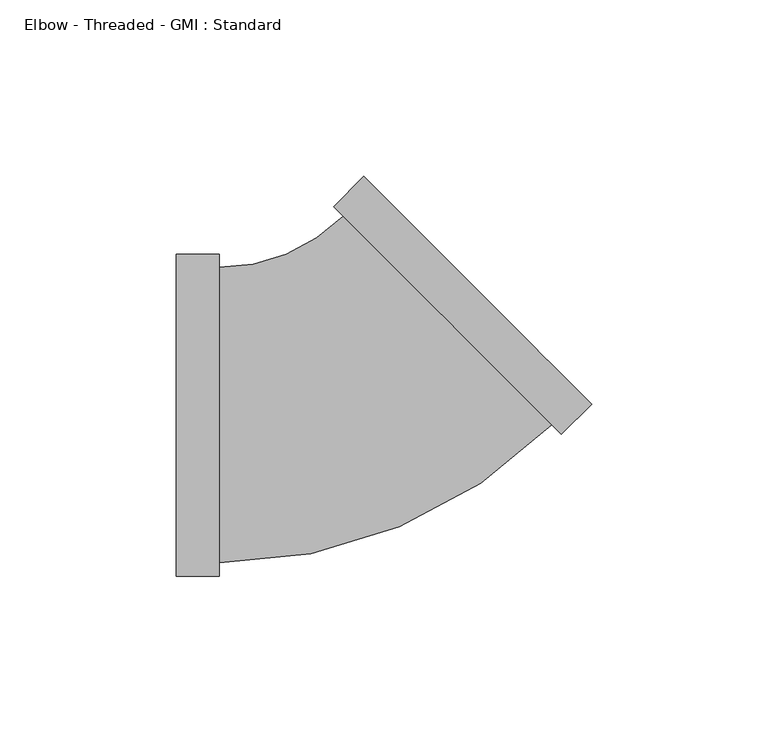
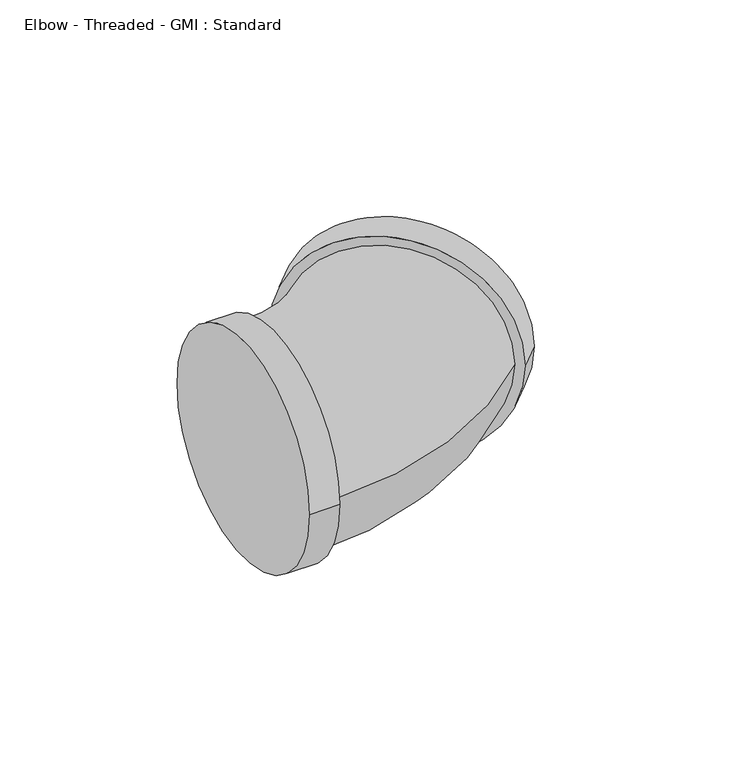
"""IFC4 building model written with IfcOpenShell, lengths in millimetres: pipe fitting geometry, Elbow - Threaded - GMI : Standard."""

from ifc_helpers import new_model, si_unit, point, frame, origin, place, context, project, spatial, circle_curve, ellipse_curve, trimmed, source, transform, mapped, element, save
from ifc_brep_helpers import plane_surface, cylinder_surface, revolved_surface, advanced_brep


def elbow_threaded_gmi_standard_9261818c(model_context):
    return source(origin(), model_context, "Body", "AdvancedBrep", [
        advanced_brep(
        [(-50.0, -45.6, 0.0), (-50.0, 45.6, 0.0), (-37.9, -45.6, 0.0), (-37.9, 45.6, 0.0), (-37.9, -41.83, 0.0), (-37.9, 41.83, 0.0), (59.0434162, -5.4447222, 0.0), (-5.4447222, 59.0434162, 0.0), (-2.7789296, 56.3776237, 0.0), (56.3776237, -2.7789297, 0.0), (67.5994083, 3.1112698, 0.0), (3.1112698, 67.5994083, 0.0)],
        [
            (0, 1, circle_curve(frame((-50.0, 0.0, 0.0), z_axis=(-1.0, 0.0, 0.0), x_axis=(0.0, 1.0, 0.0)), 45.6)),
            (1, 0, circle_curve(frame((-50.0, 0.0, 0.0), z_axis=(-1.0, 0.0, 0.0), x_axis=(0.0, 1.0, 0.0)), 45.6)),
            (2, 3, circle_curve(frame((-37.9, 0.0, 0.0), z_axis=(1.0, 0.0, 0.0), x_axis=(0.0, 1.0, 0.0)), 45.6)),
            (3, 2, circle_curve(frame((-37.9, 0.0, 0.0), z_axis=(1.0, 0.0, 0.0), x_axis=(0.0, 1.0, 0.0)), 45.6)),
            (4, 5, circle_curve(frame((-37.9, 0.0, 0.0), z_axis=(-1.0, 0.0, 0.0), x_axis=(0.0, 1.0, 0.0)), 41.83)),
            (5, 4, circle_curve(frame((-37.9, 0.0, 0.0), z_axis=(-1.0, 0.0, 0.0), x_axis=(0.0, 1.0, 0.0)), 41.83)),
            (0, 2),
            (3, 1),
            (6, 7, circle_curve(frame((26.799347, 26.799347, 0.0), z_axis=(-0.7071067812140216, -0.7071067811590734, 0.0), x_axis=(-0.7071067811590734, 0.7071067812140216, 0.0)), 45.6)),
            (7, 6, circle_curve(frame((26.799347, 26.799347, 0.0), z_axis=(-0.7071067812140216, -0.7071067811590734, 0.0), x_axis=(-0.7071067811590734, 0.7071067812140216, 0.0)), 45.6)),
            (8, 9, circle_curve(frame((26.799347, 26.799347, 0.0), z_axis=(0.7071067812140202, 0.7071067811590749, 0.0), x_axis=(-0.7071067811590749, 0.7071067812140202, 0.0)), 41.83)),
            (9, 8, circle_curve(frame((26.799347, 26.799347, 0.0), z_axis=(0.7071067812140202, 0.7071067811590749, 0.0), x_axis=(-0.7071067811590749, 0.7071067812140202, 0.0)), 41.83)),
            (10, 11, circle_curve(frame((35.3553391, 35.3553391, 0.0), z_axis=(0.7071067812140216, 0.7071067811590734, 0.0), x_axis=(-0.7071067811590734, 0.7071067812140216, 0.0)), 45.6)),
            (11, 10, circle_curve(frame((35.3553391, 35.3553391, 0.0), z_axis=(0.7071067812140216, 0.7071067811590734, 0.0), x_axis=(-0.7071067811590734, 0.7071067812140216, 0.0)), 45.6)),
            (6, 10),
            (11, 7),
            (8, 5, circle_curve(frame((-37.9, 91.498694, 0.0), z_axis=(0.0, 0.0, -1.0), x_axis=(0.0, -1.0, 0.0)), 49.668694)),
            (4, 9, circle_curve(frame((-37.9, 91.498694, 0.0), z_axis=(0.0, 0.0, 1.0), x_axis=(0.0, -1.0, 0.0)), 133.328694)),
        ],
        [
            plane_surface(frame((-50.0, 0.0, 0.0), z_axis=(-1.0, 0.0, 0.0), x_axis=(0.0, 0.0, 1.0))),
            plane_surface(frame((-37.9, 0.0, 0.0), z_axis=(1.0, 0.0, 0.0), x_axis=(0.0, 0.0, 1.0))),
            cylinder_surface(frame((-50.0, 0.0, 0.0), z_axis=(-1.0, 0.0, 0.0), x_axis=(0.0, 1.0, 0.0)), 45.6),
            plane_surface(frame((26.799347, 26.799347, 0.0), z_axis=(-0.7071067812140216, -0.7071067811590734, 0.0), x_axis=(0.0, 0.0, 1.0))),
            plane_surface(frame((35.3553391, 35.3553391, 0.0), z_axis=(0.7071067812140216, 0.7071067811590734, 0.0), x_axis=(0.0, 0.0, 1.0))),
            cylinder_surface(frame((26.799347, 26.799347, 0.0), z_axis=(-0.7071067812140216, -0.7071067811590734, 0.0), x_axis=(-0.7071067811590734, 0.7071067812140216, 0.0)), 45.6),
            revolved_surface(trimmed(ellipse_curve(frame((-37.9, 0.0, 0.0), z_axis=(-1.0, 0.0, 0.0), x_axis=(0.0, 1.0, 0.0)), 41.83, 41.83), [point((-37.9, -41.83, 0.0))], [point((-37.9, 41.83, 0.0))], True, "CARTESIAN"), (-37.9, 91.498694, 0.0), (0.0, 0.0, 1.0)),
            revolved_surface(trimmed(ellipse_curve(frame((-37.9, 0.0, 0.0), z_axis=(-1.0, 0.0, 0.0), x_axis=(0.0, 1.0, 0.0)), 41.83, 41.83), [point((-37.9, 41.83, 0.0))], [point((-37.9, -41.83, 0.0))], True, "CARTESIAN"), (-37.9, 91.498694, 0.0), (0.0, 0.0, 1.0)),
        ],
        [
            (0, [[1, 2]]),
            (1, [[3, 4], [5, 6]]),
            (2, [[-1, 7, -4, 8]]),
            (2, [[-2, -8, -3, -7]]),
            (3, [[9, 10], [11, 12]]),
            (4, [[13, 14]]),
            (5, [[-9, 15, -14, 16]]),
            (5, [[-10, -16, -13, -15]]),
            (6, [[17, -5, 18, -11]]),
            (7, [[-17, -12, -18, -6]]),
        ],
    ),
    ])


if __name__ == "__main__":
    model = new_model("IFC4")
    model_context = context("Model", 3, world=origin())
    ifc_project = project(units=[si_unit("LENGTHUNIT", "METRE", prefix="MILLI")], contexts=[model_context])
    site = spatial("IfcSite", under=ifc_project)
    building = spatial("IfcBuilding", under=site)
    placement = place(None, origin())
    elbow_threaded_gmi_standard_shape = elbow_threaded_gmi_standard_9261818c(model_context)
    element("IfcPipeFitting", 1, ObjectType="Elbow - Threaded - GMI : Standard", at=placement, inside=building, context=model_context, shape_type="MappedRepresentation", body=[
        mapped(elbow_threaded_gmi_standard_shape, transform((0.0, 0.0, 0.0), x_axis=(1.0, 0.0, 0.0), y_axis=(0.0, 1.0, 0.0), z_axis=(0.0, 0.0, 1.0))),
    ])
    save(model, "model.ifc")
